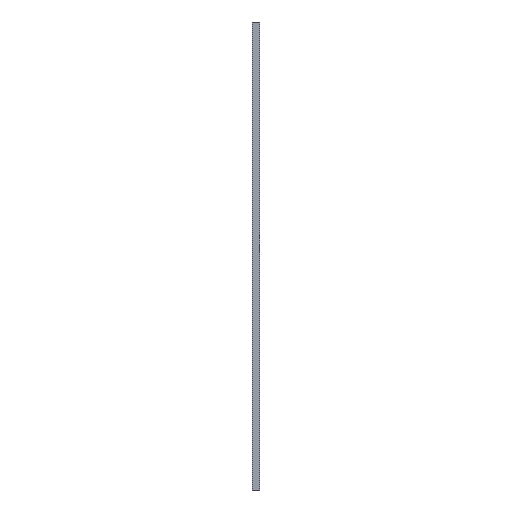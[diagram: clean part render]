
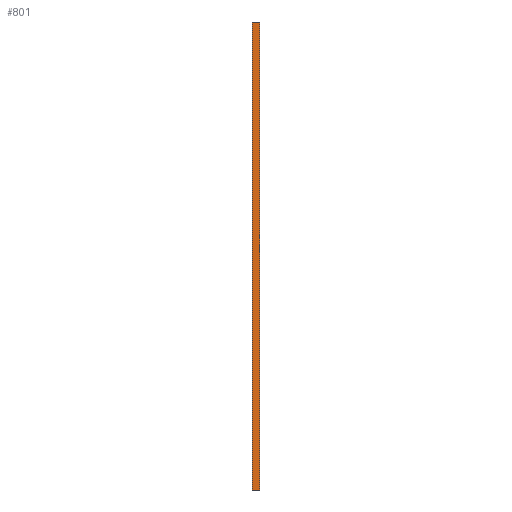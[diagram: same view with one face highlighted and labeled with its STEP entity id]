
A CAD part, left-side view. The second image highlights one B-rep face of the part: STEP entity #801.
In plain terms, the highlighted planar face has unit normal (-1, 0, 0).
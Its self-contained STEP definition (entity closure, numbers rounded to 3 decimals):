
#56 = VERTEX_POINT ( 'NONE', #586 ) ;
#115 = LINE ( 'NONE', #812, #926 ) ;
#125 = ORIENTED_EDGE ( 'NONE', *, *, #229, .T. ) ;
#162 = ORIENTED_EDGE ( 'NONE', *, *, #713, .F. ) ;
#174 = DIRECTION ( 'NONE',  ( 0., 1., 0. ) ) ;
#207 = DIRECTION ( 'NONE',  ( -1., 0., 0. ) ) ;
#229 = EDGE_CURVE ( 'NONE', #291, #753, #693, .T. ) ;
#245 = CARTESIAN_POINT ( 'NONE',  ( -701.5, -20., 150. ) ) ;
#247 = EDGE_CURVE ( 'NONE', #663, #56, #797, .T. ) ;
#279 = DIRECTION ( 'NONE',  ( 0., 1., 0. ) ) ;
#291 = VERTEX_POINT ( 'NONE', #245 ) ;
#297 = VECTOR ( 'NONE', #174, 1000. ) ;
#305 = CARTESIAN_POINT ( 'NONE',  ( -701.5, -20., -1150. ) ) ;
#341 = CARTESIAN_POINT ( 'NONE',  ( -701.5, -20., -1150. ) ) ;
#360 = CARTESIAN_POINT ( 'NONE',  ( -701.5, -20., -1150. ) ) ;
#450 = PLANE ( 'NONE',  #1089 ) ;
#464 = DIRECTION ( 'NONE',  ( 0., 0., 1. ) ) ;
#548 = FACE_OUTER_BOUND ( 'NONE', #986, .T. ) ;
#564 = ORIENTED_EDGE ( 'NONE', *, *, #836, .T. ) ;
#574 = LINE ( 'NONE', #1116, #1069 ) ;
#581 = ORIENTED_EDGE ( 'NONE', *, *, #247, .F. ) ;
#586 = CARTESIAN_POINT ( 'NONE',  ( -701.5, 0., -1150. ) ) ;
#590 = CARTESIAN_POINT ( 'NONE',  ( -701.5, -20., 150. ) ) ;
#663 = VERTEX_POINT ( 'NONE', #341 ) ;
#664 = DIRECTION ( 'NONE',  ( 0., 0., 1. ) ) ;
#693 = LINE ( 'NONE', #590, #297 ) ;
#713 = EDGE_CURVE ( 'NONE', #56, #753, #574, .T. ) ;
#753 = VERTEX_POINT ( 'NONE', #1037 ) ;
#797 = LINE ( 'NONE', #360, #1110 ) ;
#801 = ADVANCED_FACE ( 'NONE', ( #548 ), #450, .T. ) ;
#812 = CARTESIAN_POINT ( 'NONE',  ( -701.5, -20., -1150. ) ) ;
#836 = EDGE_CURVE ( 'NONE', #663, #291, #115, .T. ) ;
#926 = VECTOR ( 'NONE', #990, 1000. ) ;
#986 = EDGE_LOOP ( 'NONE', ( #162, #581, #564, #125 ) ) ;
#990 = DIRECTION ( 'NONE',  ( 0., 0., 1. ) ) ;
#1037 = CARTESIAN_POINT ( 'NONE',  ( -701.5, 0., 150. ) ) ;
#1069 = VECTOR ( 'NONE', #664, 1000. ) ;
#1089 = AXIS2_PLACEMENT_3D ( 'NONE', #305, #207, #464 ) ;
#1110 = VECTOR ( 'NONE', #279, 1000. ) ;
#1116 = CARTESIAN_POINT ( 'NONE',  ( -701.5, 0., -1150. ) ) ;
